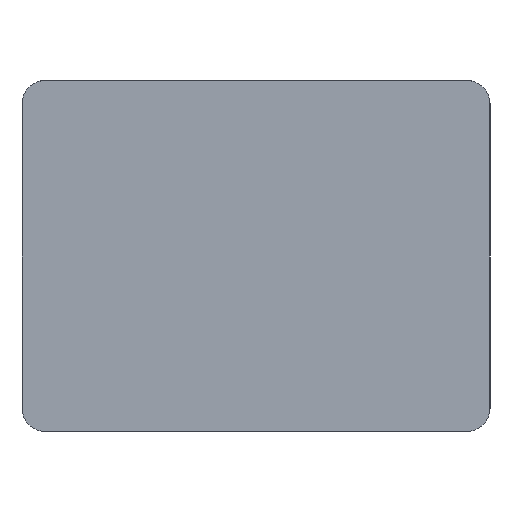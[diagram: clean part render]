
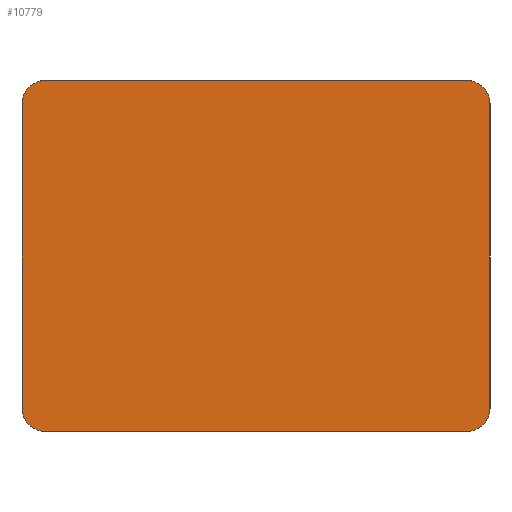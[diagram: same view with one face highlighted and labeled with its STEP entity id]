
A CAD part, left-side view. The second image highlights one B-rep face of the part: STEP entity #10779.
In plain terms, the highlighted planar face has unit normal (-1, 0, 0).
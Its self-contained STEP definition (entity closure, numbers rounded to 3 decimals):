
#1390=PLANE('',#11082);
#1952=FACE_OUTER_BOUND('',#2582,.T.);
#2582=EDGE_LOOP('',(#9975,#9976,#9977,#9978,#9979,#9980,#9981,#9982));
#3371=LINE('',#21768,#4160);
#3387=LINE('',#21893,#4176);
#3390=LINE('',#21898,#4179);
#3391=LINE('',#21902,#4180);
#4160=VECTOR('',#12266,10.);
#4176=VECTOR('',#12366,10.);
#4179=VECTOR('',#12371,10.);
#4180=VECTOR('',#12374,10.);
#4237=CIRCLE('',#11056,5.);
#4248=CIRCLE('',#11072,5.);
#4254=CIRCLE('',#11083,5.);
#4255=CIRCLE('',#11084,5.);
#5282=VERTEX_POINT('',#21762);
#5284=VERTEX_POINT('',#21766);
#5289=VERTEX_POINT('',#21800);
#5290=VERTEX_POINT('',#21802);
#5304=VERTEX_POINT('',#21860);
#5311=VERTEX_POINT('',#21892);
#5313=VERTEX_POINT('',#21899);
#5314=VERTEX_POINT('',#21901);
#6843=EDGE_CURVE('',#5284,#5282,#3371,.T.);
#6850=EDGE_CURVE('',#5289,#5290,#4237,.T.);
#6871=EDGE_CURVE('',#5282,#5304,#4248,.T.);
#6883=EDGE_CURVE('',#5290,#5311,#3387,.T.);
#6886=EDGE_CURVE('',#5304,#5289,#3390,.T.);
#6887=EDGE_CURVE('',#5313,#5284,#4254,.T.);
#6888=EDGE_CURVE('',#5314,#5313,#3391,.T.);
#6889=EDGE_CURVE('',#5311,#5314,#4255,.T.);
#9975=ORIENTED_EDGE('',*,*,#6850,.F.);
#9976=ORIENTED_EDGE('',*,*,#6886,.F.);
#9977=ORIENTED_EDGE('',*,*,#6871,.F.);
#9978=ORIENTED_EDGE('',*,*,#6843,.F.);
#9979=ORIENTED_EDGE('',*,*,#6887,.F.);
#9980=ORIENTED_EDGE('',*,*,#6888,.F.);
#9981=ORIENTED_EDGE('',*,*,#6889,.F.);
#9982=ORIENTED_EDGE('',*,*,#6883,.F.);
#10779=ADVANCED_FACE('',(#1952),#1390,.F.);
#11056=AXIS2_PLACEMENT_3D('',#21803,#12301,#12302);
#11072=AXIS2_PLACEMENT_3D('',#21861,#12341,#12342);
#11082=AXIS2_PLACEMENT_3D('',#21897,#12369,#12370);
#11083=AXIS2_PLACEMENT_3D('',#21900,#12372,#12373);
#11084=AXIS2_PLACEMENT_3D('',#21903,#12375,#12376);
#12266=DIRECTION('',(0.,0.,-1.));
#12301=DIRECTION('center_axis',(1.,0.,0.));
#12302=DIRECTION('ref_axis',(0.,0.707,-0.707));
#12341=DIRECTION('center_axis',(1.,0.,0.));
#12342=DIRECTION('ref_axis',(0.,-0.707,-0.707));
#12366=DIRECTION('',(0.,0.,1.));
#12369=DIRECTION('center_axis',(1.,0.,0.));
#12370=DIRECTION('ref_axis',(0.,1.,0.));
#12371=DIRECTION('',(0.,1.,0.));
#12372=DIRECTION('center_axis',(1.,0.,0.));
#12373=DIRECTION('ref_axis',(0.,-0.707,0.707));
#12374=DIRECTION('',(0.,-1.,0.));
#12375=DIRECTION('center_axis',(1.,0.,0.));
#12376=DIRECTION('ref_axis',(0.,0.707,0.707));
#21762=CARTESIAN_POINT('',(0.,0.,5.));
#21766=CARTESIAN_POINT('',(0.,0.,70.));
#21768=CARTESIAN_POINT('',(0.,0.,75.));
#21800=CARTESIAN_POINT('',(0.,95.,0.));
#21802=CARTESIAN_POINT('',(0.,100.,5.));
#21803=CARTESIAN_POINT('Origin',(0.,95.,5.));
#21860=CARTESIAN_POINT('',(0.,5.,0.));
#21861=CARTESIAN_POINT('Origin',(0.,5.,5.));
#21892=CARTESIAN_POINT('',(0.,100.,70.));
#21893=CARTESIAN_POINT('',(0.,100.,0.));
#21897=CARTESIAN_POINT('Origin',(0.,50.,37.5));
#21898=CARTESIAN_POINT('',(0.,0.,0.));
#21899=CARTESIAN_POINT('',(0.,5.,75.));
#21900=CARTESIAN_POINT('Origin',(0.,5.,70.));
#21901=CARTESIAN_POINT('',(0.,95.,75.));
#21902=CARTESIAN_POINT('',(0.,100.,75.));
#21903=CARTESIAN_POINT('Origin',(0.,95.,70.));
